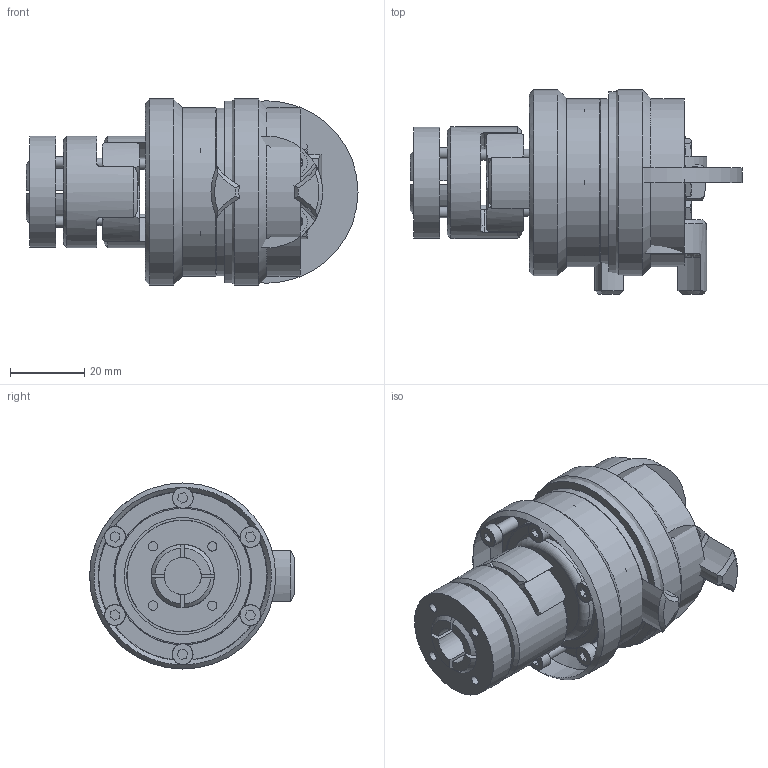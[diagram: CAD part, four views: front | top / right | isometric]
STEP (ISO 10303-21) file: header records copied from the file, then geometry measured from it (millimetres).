
FILE_DESCRIPTION( ( 'Unknown' ), '1' );
FILE_NAME( 'C:/Dokumente und Einstellungen/Sven/Desktop/hp kbk/E-AA/KBK EAA 14-75.stp', 'Unknown', ( 'Unknown' ), ( 'Unknown' ), 'XStep 1.0', 'Unknown', ' ' );
FILE_SCHEMA( ( 'automotive_design' ) );
Length unit declared in the file: millimetre
Products named in the file (19): Assem1; Assem2; Assem3; ball_bearing_-_61904_0_01_0; ball_bearing_-_61904_0_02_0; ball_bearing_-_61904_0_03_0; Zylinderschraube DIN 912_0; Stellring 10_0; Druckring 10_0; a_20_0; Flansch L-LL10_0; Elastomerflansch EK 10_0; Zahnkranz_14_Standard_0; KBE 3 - 14_Nabe; KBE3-14_Druckring_0; ISO EN DIN 4762_M3x12; L-A-10 Grundteil_0; Druckring L-A-10_0; din_en_24017_m5x12_0
Bounding box: 89.2 x 55 x 50 mm (x, y, z)
Volume: 144401.6 mm3; surface area: 98109.4 mm2
Topology: 49 solids, 49 shells, 996 faces, 2194 edges, 1389 vertices
Faces by surface type: plane 415, cylinder 302, cone 227, torus 52
Full cylindrical faces by diameter (mm): 2 x4, 2.459 x16, 2.5 x12, 2.98 x5, 3 x26, 3.4 x12, 3.5 x8, 4.134 x12, 5 x12, 5.5 x20, 5.6 x12, 6 x10, 6.88 x7, 10 x8, 14 x2, 15 x2, 19 x2, 20 x7, 24 x4, 25 x2, 25.6 x6, 29 x2, 29.993 x2, 30 x6, 31.4 x6, 37 x7, 38 x2, 40 x4, 45 x2, 45.2 x2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
Entity records: 10214 total; most frequent: CARTESIAN_POINT 2036, DIRECTION 1732, ORIENTED_EDGE 1306, AXIS2_PLACEMENT_3D 791, EDGE_CURVE 653, EDGE_LOOP 586, VERTEX_POINT 483, FACE_OUTER_BOUND 462
